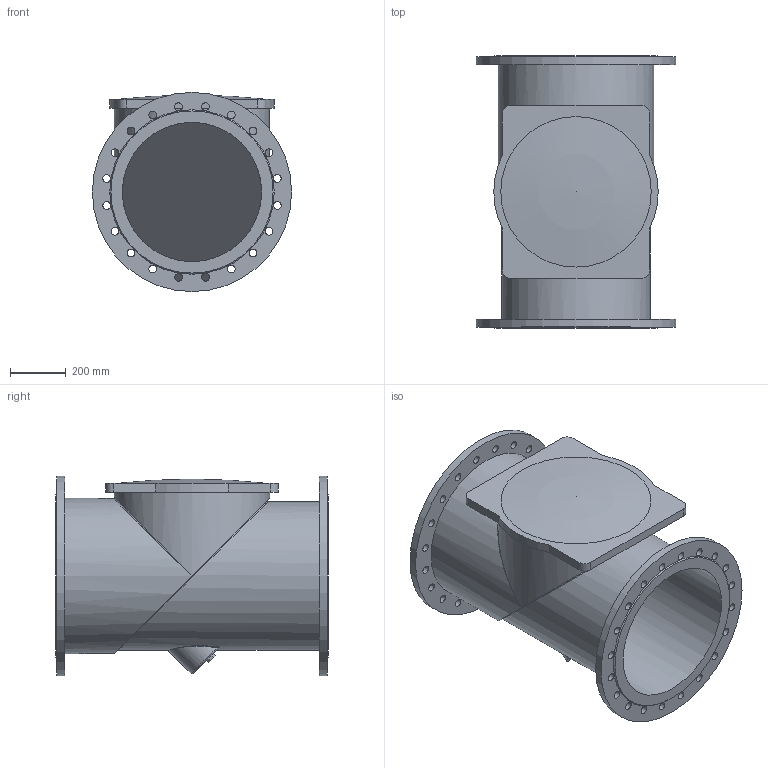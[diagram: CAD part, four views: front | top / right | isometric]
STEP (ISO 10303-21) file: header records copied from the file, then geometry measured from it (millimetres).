
FILE_DESCRIPTION(('STEP AP203'), '1');
FILE_NAME('Êëàïàí îäíîñòâîð÷àòûé îáðàòíûé ôëàíöåâûé 015F.Z DN500 PN10', '', ('UNSPECIFIED'), ('UNSPECIFIED'), 'ASCON STEP Converter 1.6', 'ASCON Math Kernel', '');
FILE_SCHEMA(('CONFIG_CONTROL_DESIGN'));
Length unit declared in the file: millimetre
Bounding box: 715 x 978 x 715 mm (x, y, z)
Volume: 69366227.4 mm3; surface area: 5135581.6 mm2
Topology: 1 solids, 2 shells, 94 faces, 231 edges, 150 vertices
Faces by surface type: cylinder 57, plane 27, bspline 6, cone 2, torus 1, sphere 1
Full cylindrical faces by diameter (mm): 28 x40, 500 x2, 525 x1, 532 x1, 557 x2, 715 x2
Entity records: 5071 total; most frequent: CARTESIAN_POINT 2088, DIRECTION 442, ORIENTED_EDGE 352, EDGE_LOOP 237, AXIS2_PLACEMENT_3D 200, EDGE_CURVE 176, VERTEX_POINT 149, FACE_BOUND 136
